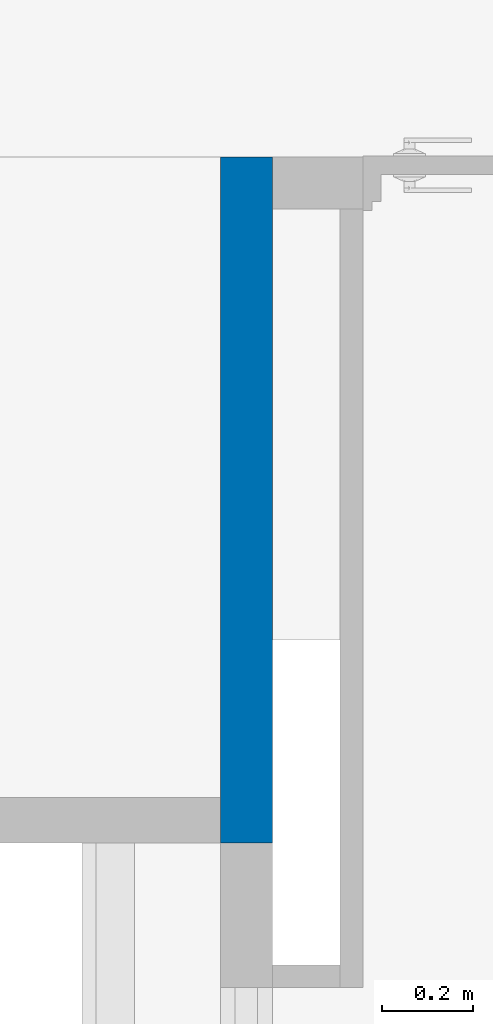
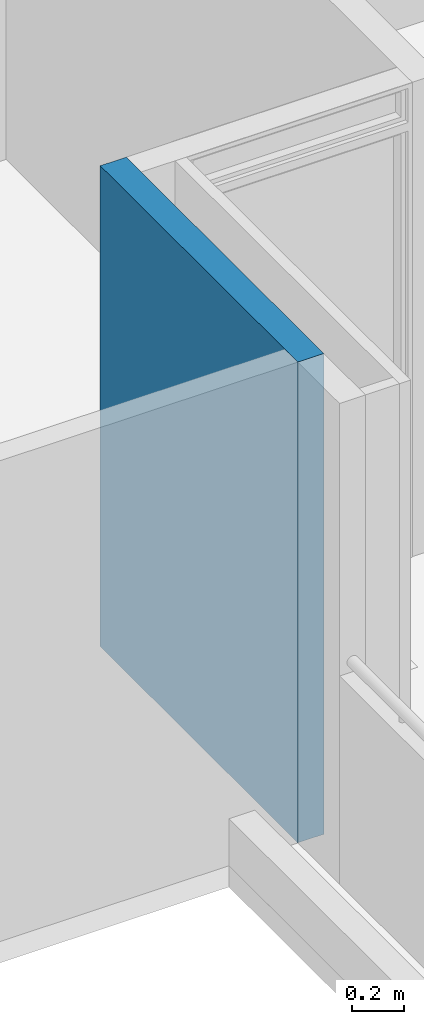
# One storey, part 21 of 51: 1 wall.
"""IFC4 building model written with IfcOpenShell, lengths in metres."""

from ifc_helpers import new_model, entity, si_unit, converted_unit, derived_unit, direction, frame, origin, place, context, subcontext, project, spatial, indexed_curve, outline, extrude, material, type_object, element, save


model = new_model("IFC4")

# Units and contexts
model_context = context("Model", 3, precision=1e-05, world=origin(), true_north=direction((6.123031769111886e-17, 1.0)))
body_context = subcontext(model_context, "Body", "Model", "MODEL_VIEW")
ifc_project = project(units=[si_unit("LENGTHUNIT", "METRE"), si_unit("AREAUNIT", "SQUARE_METRE"), si_unit("VOLUMEUNIT", "CUBIC_METRE"), converted_unit("PLANEANGLEUNIT", "DEGREE", entity("IfcRatioMeasure", 0.017453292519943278), si_unit("PLANEANGLEUNIT", "RADIAN"), dimensions=[0, 0, 0, 0, 0, 0, 0]), si_unit("MASSUNIT", "GRAM", prefix="KILO"), derived_unit("MASSDENSITYUNIT", [(si_unit("MASSUNIT", "GRAM", prefix="KILO"), 1), (si_unit("LENGTHUNIT", "METRE"), -3)]), derived_unit("IONCONCENTRATIONUNIT", [(si_unit("MASSUNIT", "GRAM", prefix="KILO"), 1), (si_unit("LENGTHUNIT", "METRE"), -3)]), derived_unit("MOMENTOFINERTIAUNIT", [(si_unit("LENGTHUNIT", "METRE"), 4)]), si_unit("TIMEUNIT", "SECOND"), si_unit("FREQUENCYUNIT", "HERTZ"), si_unit("THERMODYNAMICTEMPERATUREUNIT", "DEGREE_CELSIUS"), derived_unit("THERMALTRANSMITTANCEUNIT", [(si_unit("MASSUNIT", "GRAM", prefix="KILO"), 1), (si_unit("THERMODYNAMICTEMPERATUREUNIT", "KELVIN"), -1), (si_unit("TIMEUNIT", "SECOND"), -3)]), derived_unit("THERMALCONDUCTANCEUNIT", [(si_unit("MASSUNIT", "GRAM", prefix="KILO"), 1), (si_unit("THERMODYNAMICTEMPERATUREUNIT", "KELVIN"), -1), (si_unit("TIMEUNIT", "SECOND"), -3), (si_unit("LENGTHUNIT", "METRE"), 1)]), derived_unit("VOLUMETRICFLOWRATEUNIT", [(si_unit("LENGTHUNIT", "METRE"), 3), (si_unit("TIMEUNIT", "SECOND"), -1)]), derived_unit("MASSFLOWRATEUNIT", [(si_unit("MASSUNIT", "GRAM", prefix="KILO"), 1), (si_unit("TIMEUNIT", "SECOND"), -1)]), derived_unit("ROTATIONALFREQUENCYUNIT", [(si_unit("TIMEUNIT", "SECOND"), -1)]), si_unit("ELECTRICCURRENTUNIT", "AMPERE"), si_unit("ELECTRICVOLTAGEUNIT", "VOLT"), si_unit("POWERUNIT", "WATT"), si_unit("FORCEUNIT", "NEWTON", prefix="KILO"), si_unit("ILLUMINANCEUNIT", "LUX"), si_unit("LUMINOUSFLUXUNIT", "LUMEN"), si_unit("LUMINOUSINTENSITYUNIT", "CANDELA"), derived_unit("USERDEFINED", [(si_unit("MASSUNIT", "GRAM", prefix="KILO"), -1), (si_unit("LENGTHUNIT", "METRE"), -2), (si_unit("TIMEUNIT", "SECOND"), 3), (si_unit("LUMINOUSFLUXUNIT", "LUMEN"), 1)]), derived_unit("USERDEFINED", [(si_unit("MASSUNIT", "GRAM", prefix="KILO"), 1), (si_unit("TIMEUNIT", "SECOND"), -3), (si_unit("LENGTHUNIT", "METRE"), 3), (si_unit("ELECTRICCURRENTUNIT", "AMPERE"), -2)]), derived_unit("SOUNDPOWERUNIT", [(si_unit("MASSUNIT", "GRAM", prefix="KILO"), 1), (si_unit("TIMEUNIT", "SECOND"), -3), (si_unit("LENGTHUNIT", "METRE"), 2)]), derived_unit("SOUNDPRESSUREUNIT", [(si_unit("MASSUNIT", "GRAM", prefix="KILO"), 1), (si_unit("LENGTHUNIT", "METRE"), -1), (si_unit("TIMEUNIT", "SECOND"), -2)]), derived_unit("LINEARVELOCITYUNIT", [(si_unit("LENGTHUNIT", "METRE"), 1), (si_unit("TIMEUNIT", "SECOND"), -1)]), si_unit("PRESSUREUNIT", "PASCAL"), derived_unit("USERDEFINED", [(si_unit("MASSUNIT", "GRAM", prefix="KILO"), 1), (si_unit("LENGTHUNIT", "METRE"), -2), (si_unit("TIMEUNIT", "SECOND"), -2)]), derived_unit("LINEARFORCEUNIT", [(si_unit("MASSUNIT", "GRAM", prefix="KILO"), 1), (si_unit("TIMEUNIT", "SECOND"), -2)]), derived_unit("PLANARFORCEUNIT", [(si_unit("MASSUNIT", "GRAM", prefix="KILO"), 1), (si_unit("LENGTHUNIT", "METRE"), -1), (si_unit("TIMEUNIT", "SECOND"), -2)]), derived_unit("SPECIFICHEATCAPACITYUNIT", [(si_unit("THERMODYNAMICTEMPERATUREUNIT", "KELVIN"), -1), (si_unit("LENGTHUNIT", "METRE"), 2), (si_unit("TIMEUNIT", "SECOND"), -2)]), derived_unit("HEATINGVALUEUNIT", [(si_unit("LENGTHUNIT", "METRE"), 2), (si_unit("TIMEUNIT", "SECOND"), -2)]), derived_unit("VAPORPERMEABILITYUNIT", [(si_unit("LENGTHUNIT", "METRE"), -1), (si_unit("TIMEUNIT", "SECOND"), 1)]), derived_unit("DYNAMICVISCOSITYUNIT", [(si_unit("MASSUNIT", "GRAM", prefix="KILO"), 1), (si_unit("TIMEUNIT", "SECOND"), -1), (si_unit("LENGTHUNIT", "METRE"), -1)]), derived_unit("THERMALEXPANSIONCOEFFICIENTUNIT", [(si_unit("THERMODYNAMICTEMPERATUREUNIT", "KELVIN"), -1)]), derived_unit("MODULUSOFELASTICITYUNIT", [(si_unit("MASSUNIT", "GRAM", prefix="KILO"), 1), (si_unit("LENGTHUNIT", "METRE"), -1), (si_unit("TIMEUNIT", "SECOND"), -2)]), derived_unit("ISOTHERMALMOISTURECAPACITYUNIT", [(si_unit("LENGTHUNIT", "METRE"), 3), (si_unit("MASSUNIT", "GRAM", prefix="KILO"), -1)]), derived_unit("MOISTUREDIFFUSIVITYUNIT", [(si_unit("TIMEUNIT", "SECOND"), -1), (si_unit("LENGTHUNIT", "METRE"), 2)])], contexts=[model_context])

# Site, building, storey
site_placement = place(None, origin())
site = spatial("IfcSite", under=ifc_project, at=site_placement, Name="Default", CompositionType="ELEMENT")
building_placement = place(site_placement, origin())
building = spatial("IfcBuilding", under=site, at=building_placement, CompositionType="ELEMENT")
storey_placement = place(building_placement, frame((0.0, 0.0, 2.350000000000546)))
storey = spatial("IfcBuildingStorey", under=building, at=storey_placement, Name="Nivel 2", CompositionType="ELEMENT", Elevation=2.350000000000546)

# Wall
ifc_material = material(Name="Ladrillo claro (Aire)", Category="Materials")
wall_type = type_object("IfcWallType", Name="Basic Wall:B2010 - 0.115m - Muro interior en mampostería - Ladrillo", PredefinedType="STANDARD")
wall_placement = place(storey_placement, frame((8.005000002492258, -5.225000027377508, 0.0), z_axis=(0.0, 0.0, 1.0), x_axis=(0.0, 1.0, 0.0)))
element("IfcWall", 1, at=wall_placement, inside=storey, type_object=wall_type, material=ifc_material, Name="Basic Wall:B2010 - 0.115m - Muro interior en mampostería - Ladrillo", ObjectType="Basic Wall:B2010 - 0.115m - Muro interior en mampostería - Ladrillo", PredefinedType="NOTDEFINED", context=body_context, shape_type="SweptSolid", body=[
    extrude(outline(indexed_curve([(1.5150000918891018, 0.05749999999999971), (9.033989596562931e-17, 0.057499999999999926), (-9.033989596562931e-17, -0.057499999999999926), (1.5150000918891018, -0.057500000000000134), (1.5150000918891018, 0.05749999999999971)], self_intersect=False)), origin(), (0.0, 0.0, 1.0), 2.2500000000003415),
])

save(model, "model.ifc")
